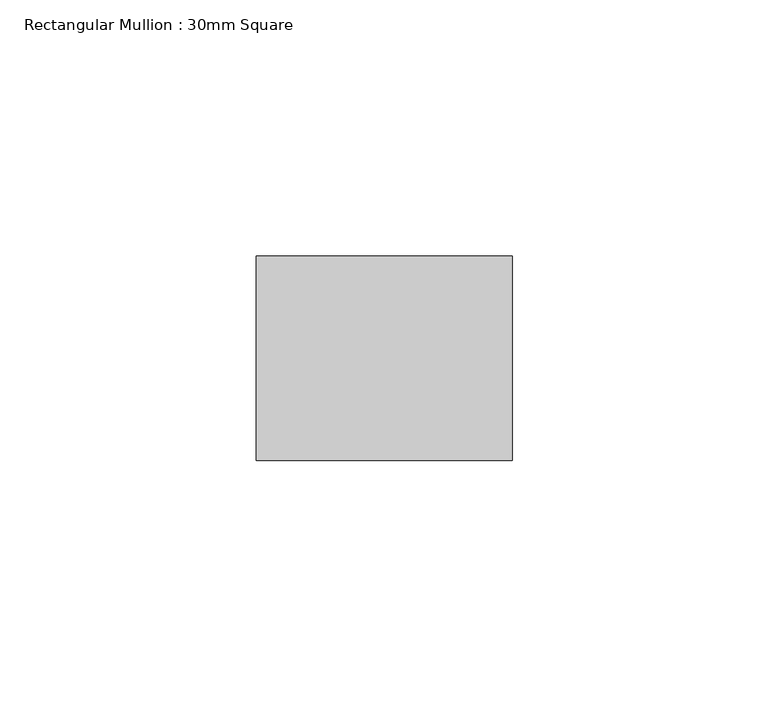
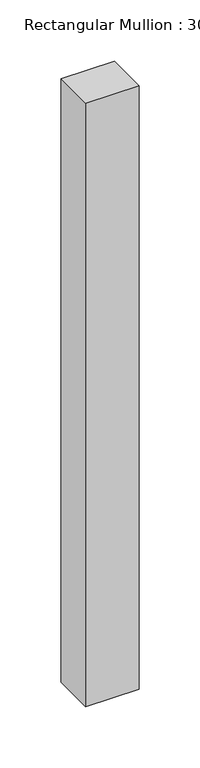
"""IFC4 building model written with IfcOpenShell, lengths in millimetres: member geometry, Rectangular Mullion : 30mm Square."""

from ifc_helpers import new_model, si_unit, frame, origin, place, context, project, spatial, polyline, outline, extrude, source, transform, mapped, element, save


def rectangular_mullion_30mm_square_d3a41906(model_context):
    return source(origin(), model_context, "Body", "SweptSolid", [
        extrude(outline(polyline([(25.0, 20.0), (25.0, -20.0), (-25.0, -20.0), (-25.0, 20.0), (25.0, 20.0)])), frame((0.0, 0.0, -600.0), z_axis=(0.0, 0.0, 1.0), x_axis=(1.0, 0.0, 0.0)), (0.0, 0.0, 1.0), 600.0),
    ])


if __name__ == "__main__":
    model = new_model("IFC4")
    model_context = context("Model", 3, world=origin())
    ifc_project = project(units=[si_unit("LENGTHUNIT", "METRE", prefix="MILLI")], contexts=[model_context])
    site = spatial("IfcSite", under=ifc_project)
    building = spatial("IfcBuilding", under=site)
    placement = place(None, origin())
    rectangular_mullion_30mm_square_shape = rectangular_mullion_30mm_square_d3a41906(model_context)
    element("IfcMember", 1, ObjectType="Rectangular Mullion : 30mm Square", at=placement, inside=building, context=model_context, shape_type="MappedRepresentation", body=[
        mapped(rectangular_mullion_30mm_square_shape, transform((0.0, 0.0, 0.0), x_axis=(1.0, 0.0, 0.0), y_axis=(0.0, 1.0, 0.0), z_axis=(0.0, 0.0, 1.0))),
    ])
    save(model, "model.ifc")
